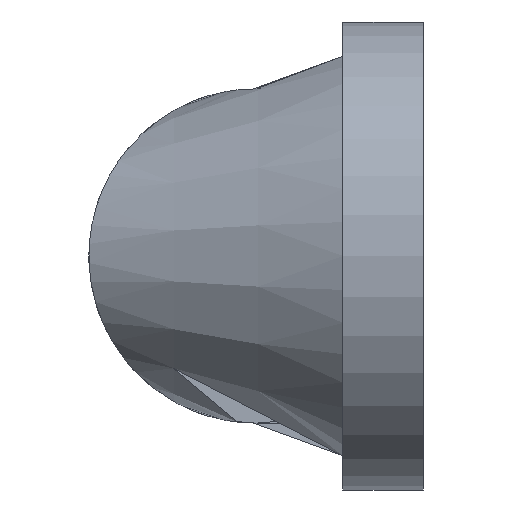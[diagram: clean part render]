
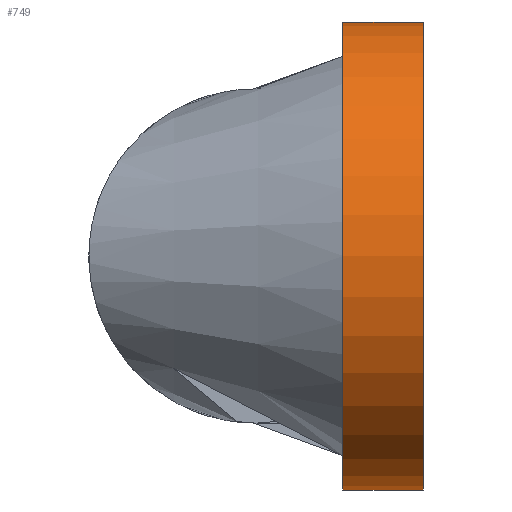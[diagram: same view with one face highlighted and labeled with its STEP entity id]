
A CAD part, left-side view. The second image highlights one B-rep face of the part: STEP entity #749.
In plain terms, the highlighted cylindrical face has radius 14 mm (diameter 28 mm), a partial arc.
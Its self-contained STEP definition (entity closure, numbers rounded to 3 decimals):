
#25 = VECTOR ( 'NONE', #809, 1000. ) ;
#54 = AXIS2_PLACEMENT_3D ( 'NONE', #746, #367, #798 ) ;
#57 = EDGE_CURVE ( 'NONE', #331, #357, #195, .T. ) ;
#59 = EDGE_LOOP ( 'NONE', ( #405, #539, #88, #804 ) ) ;
#83 = FACE_OUTER_BOUND ( 'NONE', #59, .T. ) ;
#88 = ORIENTED_EDGE ( 'NONE', *, *, #590, .T. ) ;
#136 = CARTESIAN_POINT ( 'NONE',  ( -35., 0., 14. ) ) ;
#143 = EDGE_CURVE ( 'NONE', #280, #293, #218, .T. ) ;
#153 = CARTESIAN_POINT ( 'NONE',  ( -35., 4.8, -14. ) ) ;
#172 = DIRECTION ( 'NONE',  ( 0., -1., 0. ) ) ;
#173 = DIRECTION ( 'NONE',  ( 0., 0., -1. ) ) ;
#195 = LINE ( 'NONE', #448, #25 ) ;
#208 = CIRCLE ( 'NONE', #54, 14. ) ;
#215 = CARTESIAN_POINT ( 'NONE',  ( -35., 0., -14. ) ) ;
#218 = LINE ( 'NONE', #308, #709 ) ;
#279 = AXIS2_PLACEMENT_3D ( 'NONE', #566, #314, #173 ) ;
#280 = VERTEX_POINT ( 'NONE', #463 ) ;
#293 = VERTEX_POINT ( 'NONE', #136 ) ;
#308 = CARTESIAN_POINT ( 'NONE',  ( -35., 4.8, 14. ) ) ;
#314 = DIRECTION ( 'NONE',  ( 0., -1., 0. ) ) ;
#323 = DIRECTION ( 'NONE',  ( 0., -1., 0. ) ) ;
#331 = VERTEX_POINT ( 'NONE', #153 ) ;
#357 = VERTEX_POINT ( 'NONE', #215 ) ;
#367 = DIRECTION ( 'NONE',  ( 0., -1., 0. ) ) ;
#405 = ORIENTED_EDGE ( 'NONE', *, *, #684, .F. ) ;
#417 = CYLINDRICAL_SURFACE ( 'NONE', #279, 14. ) ;
#444 = CIRCLE ( 'NONE', #477, 14. ) ;
#448 = CARTESIAN_POINT ( 'NONE',  ( -35., 4.8, -14. ) ) ;
#463 = CARTESIAN_POINT ( 'NONE',  ( -35., 4.8, 14. ) ) ;
#477 = AXIS2_PLACEMENT_3D ( 'NONE', #765, #323, #699 ) ;
#539 = ORIENTED_EDGE ( 'NONE', *, *, #143, .F. ) ;
#566 = CARTESIAN_POINT ( 'NONE',  ( -35., 4.8, 0. ) ) ;
#590 = EDGE_CURVE ( 'NONE', #280, #331, #444, .T. ) ;
#684 = EDGE_CURVE ( 'NONE', #293, #357, #208, .T. ) ;
#699 = DIRECTION ( 'NONE',  ( 0., 0., 1. ) ) ;
#709 = VECTOR ( 'NONE', #172, 1000. ) ;
#746 = CARTESIAN_POINT ( 'NONE',  ( -35., 0., 0. ) ) ;
#749 = ADVANCED_FACE ( 'NONE', ( #83 ), #417, .T. ) ;
#765 = CARTESIAN_POINT ( 'NONE',  ( -35., 4.8, 0. ) ) ;
#798 = DIRECTION ( 'NONE',  ( 0., 0., 1. ) ) ;
#804 = ORIENTED_EDGE ( 'NONE', *, *, #57, .T. ) ;
#809 = DIRECTION ( 'NONE',  ( 0., -1., 0. ) ) ;
